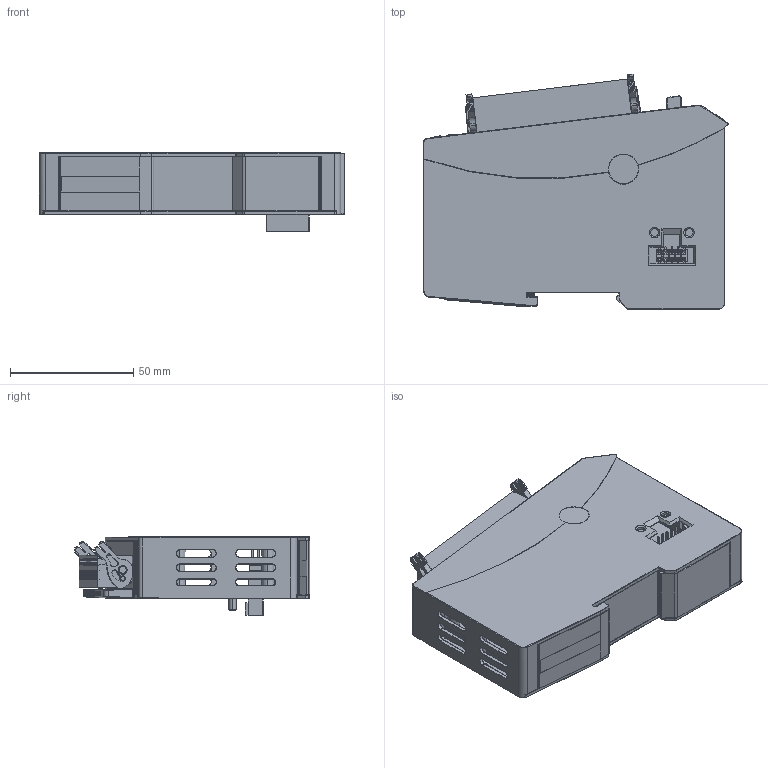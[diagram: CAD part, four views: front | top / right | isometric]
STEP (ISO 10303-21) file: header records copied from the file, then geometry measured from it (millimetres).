
FILE_DESCRIPTION(('CATIA V5 STEP Exchange'),'2;1');
FILE_NAME('Z:\DE\Automation\Data\Exchange\Dreiack\#694_Parker\3D-Daten 694\694_16.stp','2014-05-09T07:33:18+00:00',('none'),('none'),'CATIA Version 5 Release 19 SP 9 (IN-10)','CATIA V5 STEP AP214','none');
FILE_SCHEMA(('AUTOMOTIVE_DESIGN { 1 0 10303 214 1 1 1 1 }'));
Products named in the file (1): KEB-IO_SafetyIO_059
Bounding box: 123.57 x 95.5 x 31.7 mm (x, y, z)
Volume: 82881.1 mm3; surface area: 103132.7 mm2
Topology: 3 solids, 11 shells, 6696 faces, 18486 edges, 11776 vertices
Faces by surface type: plane 4066, cylinder 1988, torus 309, cone 202, sphere 92, bspline 35, revolution 4
Entity records: 215947 total; most frequent: CARTESIAN_POINT 57039, ORIENTED_EDGE 36772, DIRECTION 26139, EDGE_CURVE 18386, VECTOR 12226, LINE 12226, VERTEX_POINT 11776, AXIS2_PLACEMENT_3D 8969
